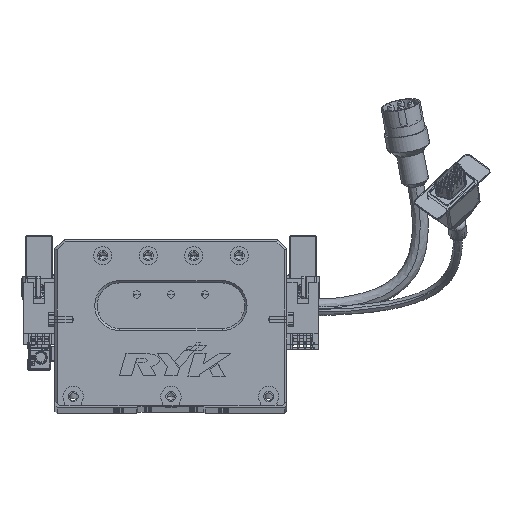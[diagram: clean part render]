
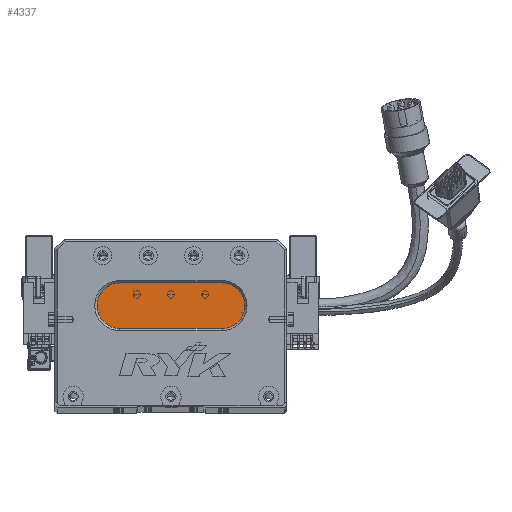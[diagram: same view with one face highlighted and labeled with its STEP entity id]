
A CAD part, top view. The second image highlights one B-rep face of the part: STEP entity #4337.
In plain terms, the highlighted planar face has unit normal (0, 0, 1) as drawn and (0, 0, -1) by its records, which use the part's own axes.
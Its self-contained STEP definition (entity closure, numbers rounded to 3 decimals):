
#837 = EDGE_LOOP ( 'NONE', ( #69636, #29023, #26264, #62383, #36697 ) ) ;
#3104 = DIRECTION ( 'NONE',  ( -1., 0., 0. ) ) ;
#4337 = ADVANCED_FACE ( 'NONE', ( #15629 ), #9021, .T. ) ;
#7584 = VERTEX_POINT ( 'NONE', #17728 ) ;
#8058 = CARTESIAN_POINT ( 'NONE',  ( 73.5, 44., 13. ) ) ;
#8296 = DIRECTION ( 'NONE',  ( 0., 0., -1. ) ) ;
#8810 = EDGE_CURVE ( 'NONE', #34283, #19670, #70941, .T. ) ;
#9021 = PLANE ( 'NONE',  #34338 ) ;
#14558 = CARTESIAN_POINT ( 'NONE',  ( 73.5, 44., 13. ) ) ;
#15629 = FACE_OUTER_BOUND ( 'NONE', #837, .T. ) ;
#17263 = CARTESIAN_POINT ( 'NONE',  ( 28.5, 44., 13. ) ) ;
#17728 = CARTESIAN_POINT ( 'NONE',  ( 28.5, 34., 13. ) ) ;
#19670 = VERTEX_POINT ( 'NONE', #25070 ) ;
#20150 = LINE ( 'NONE', #28934, #69735 ) ;
#22150 = AXIS2_PLACEMENT_3D ( 'NONE', #14558, #65567, #37356 ) ;
#24579 = CARTESIAN_POINT ( 'NONE',  ( 73.5, 34., 13. ) ) ;
#25070 = CARTESIAN_POINT ( 'NONE',  ( 73.5, 34., 13. ) ) ;
#26264 = ORIENTED_EDGE ( 'NONE', *, *, #45799, .T. ) ;
#27939 = VERTEX_POINT ( 'NONE', #65329 ) ;
#28934 = CARTESIAN_POINT ( 'NONE',  ( 73.5, 54., 13. ) ) ;
#29023 = ORIENTED_EDGE ( 'NONE', *, *, #38682, .T. ) ;
#30169 = DIRECTION ( 'NONE',  ( 0., 0., -1. ) ) ;
#31804 = AXIS2_PLACEMENT_3D ( 'NONE', #57932, #30169, #53856 ) ;
#34283 = VERTEX_POINT ( 'NONE', #45048 ) ;
#34338 = AXIS2_PLACEMENT_3D ( 'NONE', #8058, #8296, #3104 ) ;
#35494 = DIRECTION ( 'NONE',  ( -1., 0., 0. ) ) ;
#36064 = AXIS2_PLACEMENT_3D ( 'NONE', #17263, #57363, #62811 ) ;
#36697 = ORIENTED_EDGE ( 'NONE', *, *, #47666, .T. ) ;
#36748 = LINE ( 'NONE', #24579, #72217 ) ;
#37356 = DIRECTION ( 'NONE',  ( -1., 0., 0. ) ) ;
#38682 = EDGE_CURVE ( 'NONE', #19670, #7584, #36748, .T. ) ;
#41810 = EDGE_CURVE ( 'NONE', #27939, #69344, #47064, .T. ) ;
#45048 = CARTESIAN_POINT ( 'NONE',  ( 73.5, 54., 13. ) ) ;
#45799 = EDGE_CURVE ( 'NONE', #7584, #27939, #70013, .T. ) ;
#47064 = CIRCLE ( 'NONE', #31804, 10. ) ;
#47666 = EDGE_CURVE ( 'NONE', #69344, #34283, #20150, .T. ) ;
#53856 = DIRECTION ( 'NONE',  ( -1., 0., 0. ) ) ;
#57363 = DIRECTION ( 'NONE',  ( 0., 0., -1. ) ) ;
#57932 = CARTESIAN_POINT ( 'NONE',  ( 28.5, 44., 13. ) ) ;
#58924 = CARTESIAN_POINT ( 'NONE',  ( 28.5, 54., 13. ) ) ;
#62383 = ORIENTED_EDGE ( 'NONE', *, *, #41810, .T. ) ;
#62811 = DIRECTION ( 'NONE',  ( -1., 0., 0. ) ) ;
#65329 = CARTESIAN_POINT ( 'NONE',  ( 18.5, 44., 13. ) ) ;
#65567 = DIRECTION ( 'NONE',  ( 0., 0., -1. ) ) ;
#68499 = DIRECTION ( 'NONE',  ( 1., 0., 0. ) ) ;
#69344 = VERTEX_POINT ( 'NONE', #58924 ) ;
#69636 = ORIENTED_EDGE ( 'NONE', *, *, #8810, .T. ) ;
#69735 = VECTOR ( 'NONE', #68499, 1000. ) ;
#70013 = CIRCLE ( 'NONE', #36064, 10. ) ;
#70941 = CIRCLE ( 'NONE', #22150, 10. ) ;
#72217 = VECTOR ( 'NONE', #35494, 1000. ) ;
